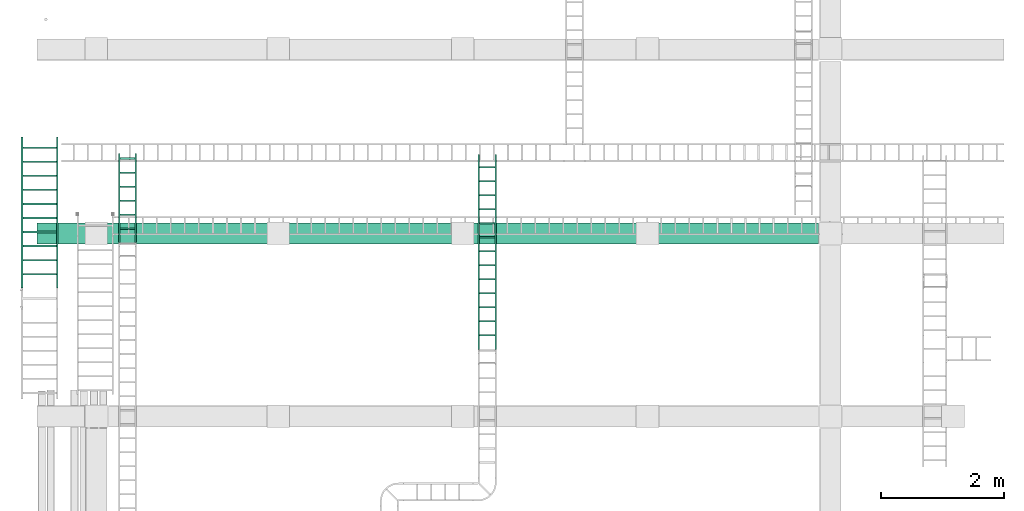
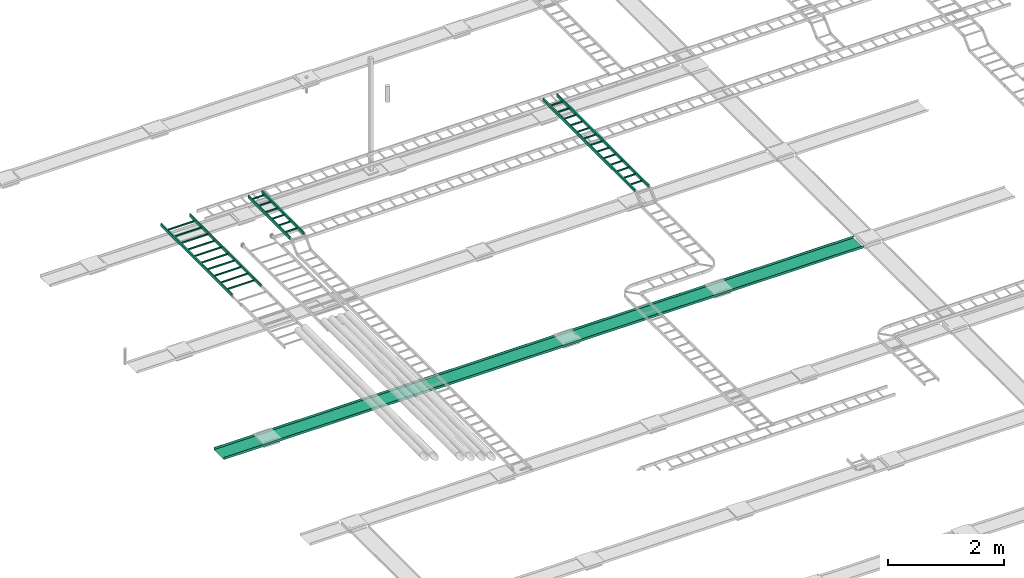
# One storey, part 9 of 16: 4 flow segments.
"""IFC2X3 building model written with IfcOpenShell, lengths in millimetres."""

from ifc_helpers import new_model, entity, si_unit, converted_unit, derived_unit, direction, frame, origin_with_axes, place, context, subcontext, project, spatial, open_shell, faceted_brep, surface_model, source, transform, mapped, type_object, element, save


model = new_model("IFC2X3")

# Units and contexts
model_context = context("Model", 3, precision=0.01, world=frame((0.0, 4.29681676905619e-09, 0.0)), true_north=direction((4.01073788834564e-13, 1.0)))
plan_context = context("Plan", 3, precision=0.01, world=frame((0.0, 4.29681676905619e-09, 0.0)), true_north=direction((4.01073788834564e-13, 1.0)))
body_context = subcontext(model_context, "Body", "Model", "MODEL_VIEW")
ifc_project = project(units=[converted_unit("PLANEANGLEUNIT", "DEGREE", entity("IfcPositiveLengthMeasure", 0.0174532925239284), si_unit("PLANEANGLEUNIT", "RADIAN"), dimensions=[0, 0, 0, 0, 0, 0, 0]), si_unit("AREAUNIT", "SQUARE_METRE"), si_unit("LENGTHUNIT", "METRE", prefix="MILLI"), si_unit("MASSUNIT", "GRAM", prefix="KILO"), si_unit("POWERUNIT", "WATT"), si_unit("PRESSUREUNIT", "PASCAL"), si_unit("FORCEUNIT", "NEWTON", prefix="KILO"), si_unit("ELECTRICVOLTAGEUNIT", "VOLT"), si_unit("ELECTRICCURRENTUNIT", "AMPERE"), si_unit("THERMODYNAMICTEMPERATUREUNIT", "DEGREE_CELSIUS"), si_unit("TIMEUNIT", "SECOND"), si_unit("VOLUMEUNIT", "CUBIC_METRE"), derived_unit("LINEARVELOCITYUNIT", [(si_unit("LENGTHUNIT", "METRE"), 1), (si_unit("TIMEUNIT", "SECOND"), -1)]), derived_unit("VOLUMETRICFLOWRATEUNIT", [(si_unit("VOLUMEUNIT", "CUBIC_METRE"), 1), (si_unit("TIMEUNIT", "SECOND"), -1)]), derived_unit("THERMALTRANSMITTANCEUNIT", [(si_unit("POWERUNIT", "WATT"), 1), (si_unit("THERMODYNAMICTEMPERATUREUNIT", "KELVIN"), -1), (si_unit("AREAUNIT", "SQUARE_METRE"), -1)]), derived_unit("SOUNDPRESSUREUNIT", [(si_unit("PRESSUREUNIT", "PASCAL"), 1)])], contexts=[model_context, plan_context])

# Site, building, storey
site_placement = place(None, frame((0.0, -4.29681676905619e-09, 0.0), z_axis=(0.0, 0.0, 1.0), x_axis=(1.0, 0.0, 0.0)))
site = spatial("IfcSite", under=ifc_project, at=site_placement, Name="ENGM", CompositionType="ELEMENT")
building_placement = place(site_placement, frame((0.0, 4.29681676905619e-09, 0.0), z_axis=(0.0, 0.0, 1.0), x_axis=(1.0, 0.0, 0.0)))
building = spatial("IfcBuilding", under=site, at=building_placement, Name="TS", CompositionType="ELEMENT")
storey_placement = place(building_placement, frame((0.0, 0.0, 210900.0), z_axis=(0.0, 0.0, 1.0), x_axis=(1.0, 0.0, 0.0)))
storey = spatial("IfcBuildingStorey", under=building, at=storey_placement, Name="Nivå F", CompositionType="ELEMENT", Elevation=210900.0)

# Flow segments
cable_carrier_segment_type_1 = type_object("IfcCableCarrierSegmentType", Name="Kabelbro", PredefinedType="CABLELADDERSEGMENT")
shared_shape_1 = source(origin_with_axes(), body_context, "Body", "SurfaceModel", [
    surface_model("IfcShellBasedSurfaceModel", [(0.0, -300.0, -30.0), (0.0, -300.0, 30.0), (0.0, -274.60001, 30.0), (0.0, -274.60001, -30.0), (0.0, 274.60001, -30.0), (0.0, 274.60001, 30.0), (0.0, 300.0, 30.0), (0.0, 300.0, -30.0), (215.89999, -274.60001, -30.0), (241.30001, -274.60001, -30.0), (241.30001, -274.60001, -4.6), (215.89999, -274.60001, -4.6), (241.30001, 274.60001, -4.6), (241.30001, 274.60001, -30.0), (215.89999, 274.60001, -30.0), (215.89999, 274.60001, -4.6), (444.50001, -274.60001, -30.0), (469.89999, -274.60001, -30.0), (469.89999, -274.60001, -4.6), (444.50001, -274.60001, -4.6), (469.89999, 274.60001, -4.6), (469.89999, 274.60001, -30.0), (444.50001, 274.60001, -30.0), (444.50001, 274.60001, -4.6), (673.09998, -274.60001, -30.0), (698.50002, -274.60001, -30.0), (698.50002, -274.60001, -4.6), (673.09998, -274.60001, -4.6), (698.50002, 274.60001, -4.6), (698.50002, 274.60001, -30.0), (673.09998, 274.60001, -30.0), (673.09998, 274.60001, -4.6), (901.69998, -274.60001, -30.0), (927.10002, -274.60001, -30.0), (927.10002, -274.60001, -4.6), (901.69998, -274.60001, -4.6), (927.10002, 274.60001, -4.6), (927.10002, 274.60001, -30.0), (901.69998, 274.60001, -30.0), (901.69998, 274.60001, -4.6), (1130.29998, -274.60001, -30.0), (1155.70002, -274.60001, -30.0), (1155.70002, -274.60001, -4.6), (1130.29998, -274.60001, -4.6), (1155.70002, 274.60001, -4.6), (1155.70002, 274.60001, -30.0), (1130.29998, 274.60001, -30.0), (1130.29998, 274.60001, -4.6), (1358.90005, -274.60001, -30.0), (1384.29995, -274.60001, -30.0), (1384.29995, -274.60001, -4.6), (1358.90005, -274.60001, -4.6), (1384.29995, 274.60001, -4.6), (1384.29995, 274.60001, -30.0), (1358.90005, 274.60001, -30.0), (1358.90005, 274.60001, -4.6), (1587.50005, -274.60001, -30.0), (1612.89995, -274.60001, -30.0), (1612.89995, -274.60001, -4.6), (1587.50005, -274.60001, -4.6), (1612.89995, 274.60001, -4.6), (1612.89995, 274.60001, -30.0), (1587.50005, 274.60001, -30.0), (1587.50005, 274.60001, -4.6), (1816.10005, -274.60001, -30.0), (1841.49995, -274.60001, -30.0), (1841.49995, -274.60001, -4.6), (1816.10005, -274.60001, -4.6), (1841.49995, 274.60001, -4.6), (1841.49995, 274.60001, -30.0), (1816.10005, 274.60001, -30.0), (1816.10005, 274.60001, -4.6), (2044.70005, -274.60001, -30.0), (2070.09995, -274.60001, -30.0), (2070.09995, -274.60001, -4.6), (2044.70005, -274.60001, -4.6), (2070.09995, 274.60001, -4.6), (2070.09995, 274.60001, -30.0), (2044.70005, 274.60001, -30.0), (2044.70005, 274.60001, -4.6), (2273.30005, -274.60001, -30.0), (2298.69995, -274.60001, -30.0), (2298.69995, -274.60001, -4.6), (2273.30005, -274.60001, -4.6), (2298.69995, 274.60001, -4.6), (2298.69995, 274.60001, -30.0), (2273.30005, 274.60001, -30.0), (2273.30005, 274.60001, -4.6), (2461.39656, -300.0, -30.0), (2461.39656, -274.60001, -30.0), (2461.39656, -274.60001, 30.0), (2461.39656, -300.0, 30.0), (2461.39656, 274.60001, -30.0), (2461.39656, 300.0, -30.0), (2461.39656, 300.0, 30.0), (2461.39656, 274.60001, 30.0)], [open_shell([[[0, 1, 2]], [[2, 3, 0]], [[4, 5, 6]], [[6, 7, 4]], [[8, 9, 10]], [[10, 11, 8]], [[12, 13, 14]], [[14, 15, 12]], [[10, 9, 12]], [[13, 12, 9]], [[11, 10, 15]], [[12, 15, 10]], [[8, 11, 14]], [[15, 14, 11]], [[9, 8, 13]], [[14, 13, 8]], [[16, 17, 18]], [[18, 19, 16]], [[20, 21, 22]], [[22, 23, 20]], [[18, 17, 20]], [[21, 20, 17]], [[19, 18, 23]], [[20, 23, 18]], [[16, 19, 22]], [[23, 22, 19]], [[17, 16, 21]], [[22, 21, 16]], [[24, 25, 26]], [[26, 27, 24]], [[28, 29, 30]], [[30, 31, 28]], [[26, 25, 28]], [[29, 28, 25]], [[27, 26, 31]], [[28, 31, 26]], [[24, 27, 30]], [[31, 30, 27]], [[25, 24, 29]], [[30, 29, 24]], [[32, 33, 34]], [[34, 35, 32]], [[36, 37, 38]], [[38, 39, 36]], [[34, 33, 36]], [[37, 36, 33]], [[35, 34, 39]], [[36, 39, 34]], [[32, 35, 38]], [[39, 38, 35]], [[33, 32, 37]], [[38, 37, 32]], [[40, 41, 42]], [[42, 43, 40]], [[44, 45, 46]], [[46, 47, 44]], [[42, 41, 44]], [[45, 44, 41]], [[43, 42, 47]], [[44, 47, 42]], [[40, 43, 46]], [[47, 46, 43]], [[41, 40, 45]], [[46, 45, 40]], [[48, 49, 50]], [[50, 51, 48]], [[52, 53, 54]], [[54, 55, 52]], [[50, 49, 52]], [[53, 52, 49]], [[51, 50, 55]], [[52, 55, 50]], [[48, 51, 54]], [[55, 54, 51]], [[49, 48, 53]], [[54, 53, 48]], [[56, 57, 58]], [[58, 59, 56]], [[60, 61, 62]], [[62, 63, 60]], [[58, 57, 60]], [[61, 60, 57]], [[59, 58, 63]], [[60, 63, 58]], [[56, 59, 62]], [[63, 62, 59]], [[57, 56, 61]], [[62, 61, 56]], [[64, 65, 66]], [[66, 67, 64]], [[68, 69, 70]], [[70, 71, 68]], [[66, 65, 68]], [[69, 68, 65]], [[67, 66, 71]], [[68, 71, 66]], [[64, 67, 70]], [[71, 70, 67]], [[65, 64, 69]], [[70, 69, 64]], [[72, 73, 74]], [[74, 75, 72]], [[76, 77, 78]], [[78, 79, 76]], [[74, 73, 76]], [[77, 76, 73]], [[75, 74, 79]], [[76, 79, 74]], [[72, 75, 78]], [[79, 78, 75]], [[73, 72, 77]], [[78, 77, 72]], [[80, 81, 82]], [[82, 83, 80]], [[84, 85, 86]], [[86, 87, 84]], [[82, 81, 84]], [[85, 84, 81]], [[83, 82, 87]], [[84, 87, 82]], [[80, 83, 86]], [[87, 86, 83]], [[81, 80, 85]], [[86, 85, 80]], [[88, 89, 90]], [[90, 91, 88]], [[92, 93, 94]], [[94, 95, 92]], [[1, 0, 88]], [[88, 91, 1]], [[2, 1, 91]], [[91, 90, 2]], [[3, 2, 90]], [[90, 89, 3]], [[0, 3, 89]], [[89, 88, 0]], [[7, 6, 94]], [[94, 93, 7]], [[4, 7, 93]], [[93, 92, 4]], [[5, 4, 92]], [[92, 95, 5]], [[6, 5, 95]], [[95, 94, 6]]])]),
])
flow_segment_1_placement = place(storey_placement, frame((520589.0125, 451106.9625, 3925.0), z_axis=(0.0, 0.0, 1.0), x_axis=(0.0, 1.0, 0.0)))
element("IfcFlowSegment", 1, at=flow_segment_1_placement, inside=storey, type_object=cable_carrier_segment_type_1, Name="Kabelbro", context=body_context, shape_type="MappedRepresentation", body=[
    mapped(shared_shape_1, transform((0.0, 0.0, 0.0), scale=1.0)),
])
shared_shape_2 = source(origin_with_axes(), body_context, "Body", "SurfaceModel", [
    surface_model("IfcShellBasedSurfaceModel", [(241.30001, -124.6, -4.6), (241.30001, -124.6, -30.0), (241.30001, 124.6, -30.0), (241.30001, 124.6, -4.6), (215.89999, -124.6, -4.6), (215.89999, 124.6, -4.6), (215.89999, -124.6, -30.0), (215.89999, 124.6, -30.0), (469.89999, -124.6, -4.6), (469.89999, -124.6, -30.0), (469.89999, 124.6, -30.0), (469.89999, 124.6, -4.6), (444.50001, -124.6, -4.6), (444.50001, 124.6, -4.6), (444.50001, -124.6, -30.0), (444.50001, 124.6, -30.0), (698.50002, -124.6, -4.6), (698.50002, -124.6, -30.0), (698.50002, 124.6, -30.0), (698.50002, 124.6, -4.6), (673.09998, -124.6, -4.6), (673.09998, 124.6, -4.6), (673.09998, -124.6, -30.0), (673.09998, 124.6, -30.0), (927.10002, -124.6, -4.6), (927.10002, -124.6, -30.0), (927.10002, 124.6, -30.0), (927.10002, 124.6, -4.6), (901.69998, -124.6, -4.6), (901.69998, 124.6, -4.6), (901.69998, -124.6, -30.0), (901.69998, 124.6, -30.0), (1155.70002, -124.6, -4.6), (1155.70002, -124.6, -30.0), (1155.70002, 124.6, -30.0), (1155.70002, 124.6, -4.6), (1130.29998, -124.6, -4.6), (1130.29998, 124.6, -4.6), (1130.29998, -124.6, -30.0), (1130.29998, 124.6, -30.0), (1384.29995, -124.6, -4.6), (1384.29995, -124.6, -30.0), (1384.29995, 124.6, -30.0), (1384.29995, 124.6, -4.6), (1358.90005, -124.6, -4.6), (1358.90005, 124.6, -4.6), (1358.90005, -124.6, -30.0), (1358.90005, 124.6, -30.0), (0.0, -124.6, 30.0), (0.0, -124.6, -30.0), (0.0, -150.0, -30.0), (0.0, -150.0, 30.0), (0.0, 150.0, 30.0), (0.0, 150.0, -30.0), (0.0, 124.6, -30.0), (0.0, 124.6, 30.0), (1451.42129, -150.0, -30.0), (1451.42129, -124.6, -30.0), (1451.42129, -124.6, 30.0), (1451.42129, -150.0, 30.0), (1451.42129, 124.6, -30.0), (1451.42129, 150.0, -30.0), (1451.42129, 150.0, 30.0), (1451.42129, 124.6, 30.0)], [open_shell([[[0, 1, 2]], [[2, 3, 0]], [[4, 0, 5]], [[3, 5, 0]], [[6, 4, 5]], [[5, 7, 6]], [[1, 6, 2]], [[7, 2, 6]], [[8, 9, 10]], [[10, 11, 8]], [[12, 8, 13]], [[11, 13, 8]], [[14, 12, 13]], [[13, 15, 14]], [[9, 14, 10]], [[15, 10, 14]], [[16, 17, 18]], [[18, 19, 16]], [[20, 16, 21]], [[19, 21, 16]], [[22, 20, 21]], [[21, 23, 22]], [[17, 22, 18]], [[23, 18, 22]], [[24, 25, 26]], [[26, 27, 24]], [[28, 24, 29]], [[27, 29, 24]], [[30, 28, 29]], [[29, 31, 30]], [[25, 30, 26]], [[31, 26, 30]], [[32, 33, 34]], [[34, 35, 32]], [[36, 32, 37]], [[35, 37, 32]], [[38, 36, 37]], [[37, 39, 38]], [[33, 38, 34]], [[39, 34, 38]], [[40, 41, 42]], [[42, 43, 40]], [[44, 40, 45]], [[43, 45, 40]], [[46, 44, 45]], [[45, 47, 46]], [[41, 46, 42]], [[47, 42, 46]], [[48, 49, 50]], [[50, 51, 48]], [[52, 53, 54]], [[54, 55, 52]], [[6, 1, 0]], [[0, 4, 6]], [[3, 2, 7]], [[7, 5, 3]], [[14, 9, 8]], [[8, 12, 14]], [[11, 10, 15]], [[15, 13, 11]], [[22, 17, 16]], [[16, 20, 22]], [[19, 18, 23]], [[23, 21, 19]], [[30, 25, 24]], [[24, 28, 30]], [[27, 26, 31]], [[31, 29, 27]], [[38, 33, 32]], [[32, 36, 38]], [[35, 34, 39]], [[39, 37, 35]], [[46, 41, 40]], [[40, 44, 46]], [[43, 42, 47]], [[47, 45, 43]], [[56, 57, 58]], [[58, 59, 56]], [[60, 61, 62]], [[62, 63, 60]], [[51, 50, 59]], [[56, 59, 50]], [[48, 51, 59]], [[59, 58, 48]], [[49, 48, 57]], [[58, 57, 48]], [[50, 49, 57]], [[57, 56, 50]], [[53, 52, 61]], [[62, 61, 52]], [[54, 53, 61]], [[61, 60, 54]], [[55, 54, 63]], [[60, 63, 54]], [[52, 55, 63]], [[63, 62, 52]]])]),
])
flow_segment_2_placement = place(storey_placement, frame((522022.55901, 451848.51307, 4125.0), z_axis=(0.0, 0.0, 1.0), x_axis=(0.0, 1.0, 0.0)))
element("IfcFlowSegment", 2, at=flow_segment_2_placement, inside=storey, type_object=cable_carrier_segment_type_1, Name="Kabelbro", context=body_context, shape_type="MappedRepresentation", body=[
    mapped(shared_shape_2, transform((0.0, 0.0, 0.0), scale=1.0)),
])
shared_shape_3 = source(origin_with_axes(), body_context, "Body", "SurfaceModel", [
    surface_model("IfcShellBasedSurfaceModel", [(241.30001, -124.6, -4.6), (241.30001, -124.6, -30.0), (241.30001, 124.6, -30.0), (241.30001, 124.6, -4.6), (215.89999, -124.6, -4.6), (215.89999, 124.6, -4.6), (215.89999, -124.6, -30.0), (215.89999, 124.6, -30.0), (469.89999, -124.6, -4.6), (469.89999, -124.6, -30.0), (469.89999, 124.6, -30.0), (469.89999, 124.6, -4.6), (444.50001, -124.6, -4.6), (444.50001, 124.6, -4.6), (444.50001, -124.6, -30.0), (444.50001, 124.6, -30.0), (698.50002, -124.6, -4.6), (698.50002, -124.6, -30.0), (698.50002, 124.6, -30.0), (698.50002, 124.6, -4.6), (673.09998, -124.6, -4.6), (673.09998, 124.6, -4.6), (673.09998, -124.6, -30.0), (673.09998, 124.6, -30.0), (927.10002, -124.6, -4.6), (927.10002, -124.6, -30.0), (927.10002, 124.6, -30.0), (927.10002, 124.6, -4.6), (901.69998, -124.6, -4.6), (901.69998, 124.6, -4.6), (901.69998, -124.6, -30.0), (901.69998, 124.6, -30.0), (1155.70002, -124.6, -4.6), (1155.70002, -124.6, -30.0), (1155.70002, 124.6, -30.0), (1155.70002, 124.6, -4.6), (1130.29998, -124.6, -4.6), (1130.29998, 124.6, -4.6), (1130.29998, -124.6, -30.0), (1130.29998, 124.6, -30.0), (1384.29995, -124.6, -4.6), (1384.29995, -124.6, -30.0), (1384.29995, 124.6, -30.0), (1384.29995, 124.6, -4.6), (1358.90005, -124.6, -4.6), (1358.90005, 124.6, -4.6), (1358.90005, -124.6, -30.0), (1358.90005, 124.6, -30.0), (1612.89995, -124.6, -4.6), (1612.89995, -124.6, -30.0), (1612.89995, 124.6, -30.0), (1612.89995, 124.6, -4.6), (1587.50005, -124.6, -4.6), (1587.50005, 124.6, -4.6), (1587.50005, -124.6, -30.0), (1587.50005, 124.6, -30.0), (1841.49995, -124.6, -4.6), (1841.49995, -124.6, -30.0), (1841.49995, 124.6, -30.0), (1841.49995, 124.6, -4.6), (1816.10005, -124.6, -4.6), (1816.10005, 124.6, -4.6), (1816.10005, -124.6, -30.0), (1816.10005, 124.6, -30.0), (2070.09995, -124.6, -4.6), (2070.09995, -124.6, -30.0), (2070.09995, 124.6, -30.0), (2070.09995, 124.6, -4.6), (2044.70005, -124.6, -4.6), (2044.70005, 124.6, -4.6), (2044.70005, -124.6, -30.0), (2044.70005, 124.6, -30.0), (2298.69995, -124.6, -4.6), (2298.69995, -124.6, -30.0), (2298.69995, 124.6, -30.0), (2298.69995, 124.6, -4.6), (2273.30005, -124.6, -4.6), (2273.30005, 124.6, -4.6), (2273.30005, -124.6, -30.0), (2273.30005, 124.6, -30.0), (2527.3001, -124.6, -4.6), (2527.3001, -124.6, -30.0), (2527.3001, 124.6, -30.0), (2527.3001, 124.6, -4.6), (2501.8999, -124.6, -4.6), (2501.8999, 124.6, -4.6), (2501.8999, -124.6, -30.0), (2501.8999, 124.6, -30.0), (2755.9001, -124.6, -4.6), (2755.9001, -124.6, -30.0), (2755.9001, 124.6, -30.0), (2755.9001, 124.6, -4.6), (2730.4999, -124.6, -4.6), (2730.4999, 124.6, -4.6), (2730.4999, -124.6, -30.0), (2730.4999, 124.6, -30.0), (2984.5001, -124.6, -4.6), (2984.5001, -124.6, -30.0), (2984.5001, 124.6, -30.0), (2984.5001, 124.6, -4.6), (2959.0999, -124.6, -4.6), (2959.0999, 124.6, -4.6), (2959.0999, -124.6, -30.0), (2959.0999, 124.6, -30.0), (0.0, -124.6, 30.0), (0.0, -124.6, -30.0), (0.0, -150.0, -30.0), (0.0, -150.0, 30.0), (0.0, 150.0, 30.0), (0.0, 150.0, -30.0), (0.0, 124.6, -30.0), (0.0, 124.6, 30.0), (3174.78587, -150.0, -30.0), (3174.78587, -124.6, -30.0), (3174.78587, -124.6, 30.0), (3174.78587, -150.0, 30.0), (3174.78587, 124.6, -30.0), (3174.78587, 150.0, -30.0), (3174.78587, 150.0, 30.0), (3174.78587, 124.6, 30.0)], [open_shell([[[0, 1, 2]], [[2, 3, 0]], [[4, 0, 5]], [[3, 5, 0]], [[6, 4, 5]], [[5, 7, 6]], [[1, 6, 2]], [[7, 2, 6]], [[8, 9, 10]], [[10, 11, 8]], [[12, 8, 13]], [[11, 13, 8]], [[14, 12, 13]], [[13, 15, 14]], [[9, 14, 10]], [[15, 10, 14]], [[16, 17, 18]], [[18, 19, 16]], [[20, 16, 21]], [[19, 21, 16]], [[22, 20, 21]], [[21, 23, 22]], [[17, 22, 18]], [[23, 18, 22]], [[24, 25, 26]], [[26, 27, 24]], [[28, 24, 29]], [[27, 29, 24]], [[30, 28, 29]], [[29, 31, 30]], [[25, 30, 26]], [[31, 26, 30]], [[32, 33, 34]], [[34, 35, 32]], [[36, 32, 37]], [[35, 37, 32]], [[38, 36, 37]], [[37, 39, 38]], [[33, 38, 34]], [[39, 34, 38]], [[40, 41, 42]], [[42, 43, 40]], [[44, 40, 45]], [[43, 45, 40]], [[46, 44, 45]], [[45, 47, 46]], [[41, 46, 42]], [[47, 42, 46]], [[48, 49, 50]], [[50, 51, 48]], [[52, 48, 53]], [[51, 53, 48]], [[54, 52, 53]], [[53, 55, 54]], [[49, 54, 50]], [[55, 50, 54]], [[56, 57, 58]], [[58, 59, 56]], [[60, 56, 61]], [[59, 61, 56]], [[62, 60, 61]], [[61, 63, 62]], [[57, 62, 58]], [[63, 58, 62]], [[64, 65, 66]], [[66, 67, 64]], [[68, 64, 69]], [[67, 69, 64]], [[70, 68, 69]], [[69, 71, 70]], [[65, 70, 66]], [[71, 66, 70]], [[72, 73, 74]], [[74, 75, 72]], [[76, 72, 77]], [[75, 77, 72]], [[78, 76, 77]], [[77, 79, 78]], [[73, 78, 74]], [[79, 74, 78]], [[80, 81, 82]], [[82, 83, 80]], [[84, 80, 85]], [[83, 85, 80]], [[86, 84, 85]], [[85, 87, 86]], [[81, 86, 82]], [[87, 82, 86]], [[88, 89, 90]], [[90, 91, 88]], [[92, 88, 93]], [[91, 93, 88]], [[94, 92, 93]], [[93, 95, 94]], [[89, 94, 90]], [[95, 90, 94]], [[96, 97, 98]], [[98, 99, 96]], [[100, 96, 101]], [[99, 101, 96]], [[102, 100, 101]], [[101, 103, 102]], [[97, 102, 98]], [[103, 98, 102]], [[104, 105, 106]], [[106, 107, 104]], [[108, 109, 110]], [[110, 111, 108]], [[6, 1, 0]], [[0, 4, 6]], [[3, 2, 7]], [[7, 5, 3]], [[14, 9, 8]], [[8, 12, 14]], [[11, 10, 15]], [[15, 13, 11]], [[22, 17, 16]], [[16, 20, 22]], [[19, 18, 23]], [[23, 21, 19]], [[30, 25, 24]], [[24, 28, 30]], [[27, 26, 31]], [[31, 29, 27]], [[38, 33, 32]], [[32, 36, 38]], [[35, 34, 39]], [[39, 37, 35]], [[46, 41, 40]], [[40, 44, 46]], [[43, 42, 47]], [[47, 45, 43]], [[54, 49, 48]], [[48, 52, 54]], [[51, 50, 55]], [[55, 53, 51]], [[62, 57, 56]], [[56, 60, 62]], [[59, 58, 63]], [[63, 61, 59]], [[70, 65, 64]], [[64, 68, 70]], [[67, 66, 71]], [[71, 69, 67]], [[78, 73, 72]], [[72, 76, 78]], [[75, 74, 79]], [[79, 77, 75]], [[86, 81, 80]], [[80, 84, 86]], [[83, 82, 87]], [[87, 85, 83]], [[94, 89, 88]], [[88, 92, 94]], [[91, 90, 95]], [[95, 93, 91]], [[102, 97, 96]], [[96, 100, 102]], [[99, 98, 103]], [[103, 101, 99]], [[112, 113, 114]], [[114, 115, 112]], [[116, 117, 118]], [[118, 119, 116]], [[107, 106, 112]], [[112, 115, 107]], [[104, 107, 114]], [[115, 114, 107]], [[105, 104, 114]], [[114, 113, 105]], [[106, 105, 112]], [[113, 112, 105]], [[109, 108, 118]], [[118, 117, 109]], [[110, 109, 116]], [[117, 116, 109]], [[111, 110, 116]], [[116, 119, 111]], [[108, 111, 118]], [[119, 118, 111]]])]),
])
flow_segment_3_placement = place(storey_placement, frame((527892.55901, 450107.86419, 4125.0), z_axis=(0.0, 0.0, 1.0), x_axis=(0.0, 1.0, 0.0)))
element("IfcFlowSegment", 3, at=flow_segment_3_placement, inside=storey, type_object=cable_carrier_segment_type_1, Name="Kabelbro", context=body_context, shape_type="MappedRepresentation", body=[
    mapped(shared_shape_3, transform((0.0, 0.0, 0.0), scale=1.0)),
])
cable_carrier_segment_type_2 = type_object("IfcCableCarrierSegmentType", Name="Kabelbane", PredefinedType="CABLETRAYSEGMENT")
flow_segment_4_placement = place(storey_placement, frame((512669.41745, 451997.0222, -35.0), z_axis=(0.0, 0.0, 1.0), x_axis=(1.0, 0.0, 0.0)))
element("IfcFlowSegment", 4, at=flow_segment_4_placement, inside=storey, type_object=cable_carrier_segment_type_2, Name="Kabelbane", context=body_context, shape_type="Brep", body=[
    faceted_brep([(20625.0899, -175.0, 25.0), (20625.0899, -172.46, -22.46), (20625.0899, -175.0, -25.0), (20625.0899, -172.46, 25.0), (20625.0899, 175.0, -25.0), (20625.0899, 172.46, -22.46), (20625.0899, 175.0, 25.0), (20625.0899, 172.46, 25.0), (7875.57005002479, -175.0, -25.0), (7875.57005002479, -175.0, 5.90779218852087), (7875.57005002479, -175.0, 25.0), (7875.57005002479, -173.429884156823, 25.0), (7875.57005002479, -172.46, 25.0), (7875.57005002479, -172.46, -4.33767634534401), (7875.57005002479, -172.46, -22.46), (7875.57005002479, -40.7543136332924, -22.46), (7875.57005002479, 172.46, -22.46), (7875.57005002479, 172.46, 6.87767634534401), (7875.57005002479, 172.46, 25.0), (7875.57005002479, 174.030115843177, 25.0), (7875.57005002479, 175.0, 25.0), (7875.57005002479, 175.0, -5.90779218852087), (7875.57005002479, 175.0, -25.0), (7875.57005002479, 41.3545453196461, -25.0)], [[[0, 1, 2]], [[1, 0, 3]], [[4, 2, 1]], [[1, 5, 4]], [[6, 4, 5]], [[5, 7, 6]], [[8, 9, 2]], [[9, 10, 0, 2]], [[10, 11, 0]], [[11, 12, 3, 0]], [[12, 13, 3]], [[13, 14, 1, 3]], [[15, 16, 5]], [[14, 15, 5, 1]], [[16, 17, 5]], [[17, 18, 7, 5]], [[18, 19, 7]], [[19, 20, 6, 7]], [[20, 21, 6]], [[21, 22, 4, 6]], [[23, 8, 2]], [[22, 23, 2, 4]], [[23, 22, 21, 20, 19, 18, 17, 16, 15, 14, 13, 12, 11, 10, 9, 8]]], orient=[[False], [False], [False], [False], [False], [False], [False], [False], [False], [False], [False], [False], [False], [False], [False], [False], [False], [False], [False], [False], [False], [False], [False]]),
])

save(model, "model.ifc")
